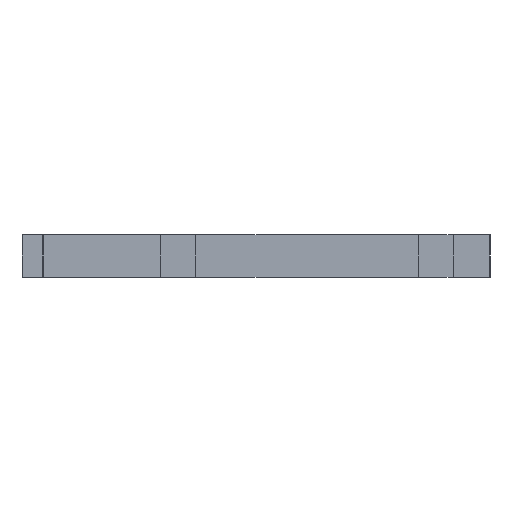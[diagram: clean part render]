
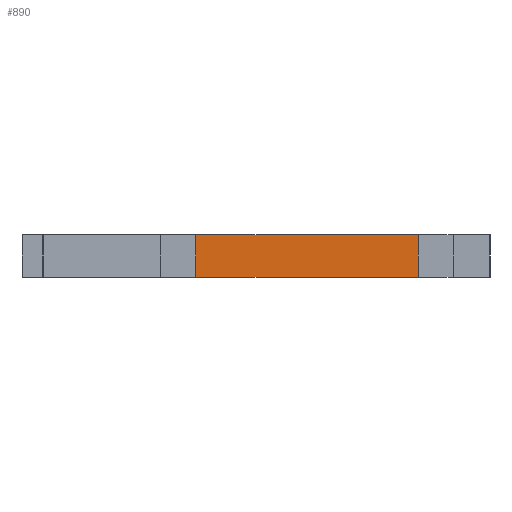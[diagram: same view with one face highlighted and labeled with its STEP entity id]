
A CAD part, left-side view. The second image highlights one B-rep face of the part: STEP entity #890.
In plain terms, the highlighted planar face has unit normal (-1, 0, 0).
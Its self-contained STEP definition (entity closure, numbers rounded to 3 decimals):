
#67 = VERTEX_POINT ( 'NONE', #274 ) ;
#170 = EDGE_CURVE ( 'NONE', #67, #271, #955, .T. ) ;
#263 = ORIENTED_EDGE ( 'NONE', *, *, #1186, .T. ) ;
#271 = VERTEX_POINT ( 'NONE', #1398 ) ;
#274 = CARTESIAN_POINT ( 'NONE',  ( -462.5, -40.5, 10. ) ) ;
#288 = CARTESIAN_POINT ( 'NONE',  ( -462.5, -92.3, 0. ) ) ;
#309 = PLANE ( 'NONE',  #722 ) ;
#391 = VECTOR ( 'NONE', #533, 1000. ) ;
#426 = DIRECTION ( 'NONE',  ( 0., 0., -1. ) ) ;
#445 = CARTESIAN_POINT ( 'NONE',  ( -462.5, -92.3, 10. ) ) ;
#531 = LINE ( 'NONE', #733, #1742 ) ;
#533 = DIRECTION ( 'NONE',  ( 0., -1., 0. ) ) ;
#565 = DIRECTION ( 'NONE',  ( 0., 0., -1. ) ) ;
#589 = ORIENTED_EDGE ( 'NONE', *, *, #1148, .F. ) ;
#683 = ORIENTED_EDGE ( 'NONE', *, *, #805, .T. ) ;
#690 = FACE_OUTER_BOUND ( 'NONE', #1111, .T. ) ;
#709 = VECTOR ( 'NONE', #1555, 1000. ) ;
#722 = AXIS2_PLACEMENT_3D ( 'NONE', #445, #1705, #1154 ) ;
#733 = CARTESIAN_POINT ( 'NONE',  ( -462.5, -40.5, 10. ) ) ;
#735 = VECTOR ( 'NONE', #426, 1000. ) ;
#805 = EDGE_CURVE ( 'NONE', #67, #1496, #531, .T. ) ;
#890 = ADVANCED_FACE ( 'NONE', ( #690 ), #309, .F. ) ;
#951 = CARTESIAN_POINT ( 'NONE',  ( -462.5, -40.5, 0. ) ) ;
#955 = LINE ( 'NONE', #1368, #391 ) ;
#1049 = LINE ( 'NONE', #288, #709 ) ;
#1111 = EDGE_LOOP ( 'NONE', ( #263, #589, #1443, #683 ) ) ;
#1114 = CARTESIAN_POINT ( 'NONE',  ( -462.5, -92.3, 10. ) ) ;
#1117 = LINE ( 'NONE', #1114, #735 ) ;
#1134 = CARTESIAN_POINT ( 'NONE',  ( -462.5, -92.3, 0. ) ) ;
#1148 = EDGE_CURVE ( 'NONE', #271, #1774, #1117, .T. ) ;
#1154 = DIRECTION ( 'NONE',  ( 0., 0., -1. ) ) ;
#1186 = EDGE_CURVE ( 'NONE', #1496, #1774, #1049, .T. ) ;
#1368 = CARTESIAN_POINT ( 'NONE',  ( -462.5, -92.3, 10. ) ) ;
#1398 = CARTESIAN_POINT ( 'NONE',  ( -462.5, -92.3, 10. ) ) ;
#1443 = ORIENTED_EDGE ( 'NONE', *, *, #170, .F. ) ;
#1496 = VERTEX_POINT ( 'NONE', #951 ) ;
#1555 = DIRECTION ( 'NONE',  ( 0., -1., 0. ) ) ;
#1705 = DIRECTION ( 'NONE',  ( 1., 0., 0. ) ) ;
#1742 = VECTOR ( 'NONE', #565, 1000. ) ;
#1774 = VERTEX_POINT ( 'NONE', #1134 ) ;
